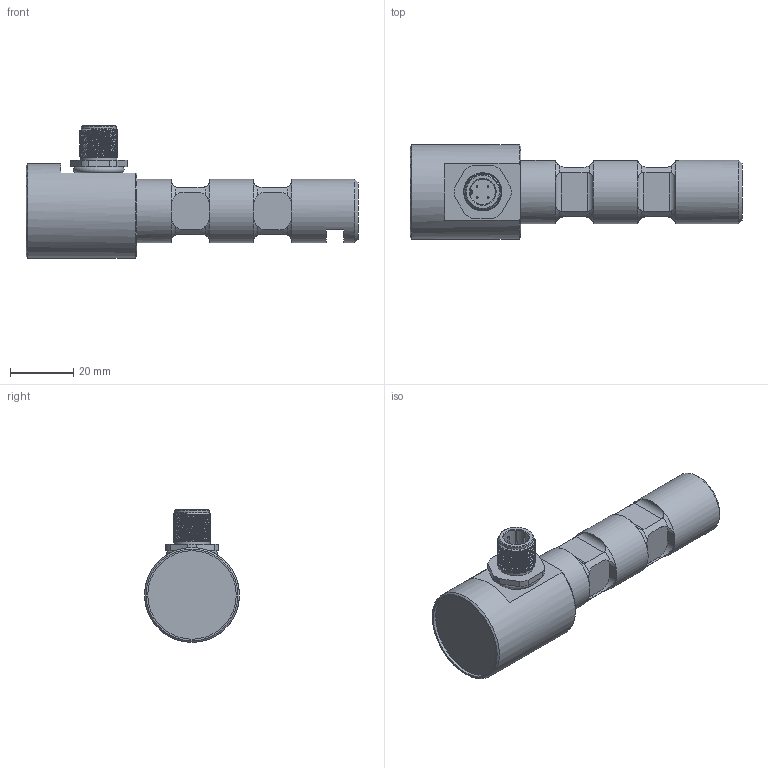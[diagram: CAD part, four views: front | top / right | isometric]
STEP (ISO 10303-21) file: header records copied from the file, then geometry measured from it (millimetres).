
FILE_DESCRIPTION(/* description */ ('Alibre Inc.'),/* implementation_level */ '2;1');
FILE_NAME(/* name */ 'export-7A7896F2-FDEF-4D8E-A712-18F0D4A77BE3',/* time_stamp */ '2019-03-20T10:32:24+01:00',/* author */ (''),/* organization */ (''),/* preprocessor_version */ 'ST-DEVELOPER v17',/* originating_system */ 'Alibre',/* authorisation */ '');
FILE_SCHEMA (('CONFIG_CONTROL_DESIGN'));
Length unit declared in the file: centimetre
Products named in the file (3): ID_1
Bounding box: 105 x 30 x 42 mm (x, y, z)
Volume: 103931 mm3; surface area: 84483 mm2
Topology: 6 solids, 7 shells, 204 faces, 477 edges, 295 vertices
Faces by surface type: plane 84, cylinder 70, bspline 23, torus 18, cone 9
Full cylindrical faces by diameter (mm): 0.5 x8, 8 x2, 10 x2, 11 x1, 11.5 x1, 12 x1, 13 x2, 20 x3, 28 x1, 30 x1
Entity records: 18684 total; most frequent: CARTESIAN_POINT 14709, ORIENTED_EDGE 870, DIRECTION 517, EDGE_CURVE 428, VERTEX_POINT 277, EDGE_LOOP 255, FACE_BOUND 255, AXIS2_PLACEMENT_3D 228
